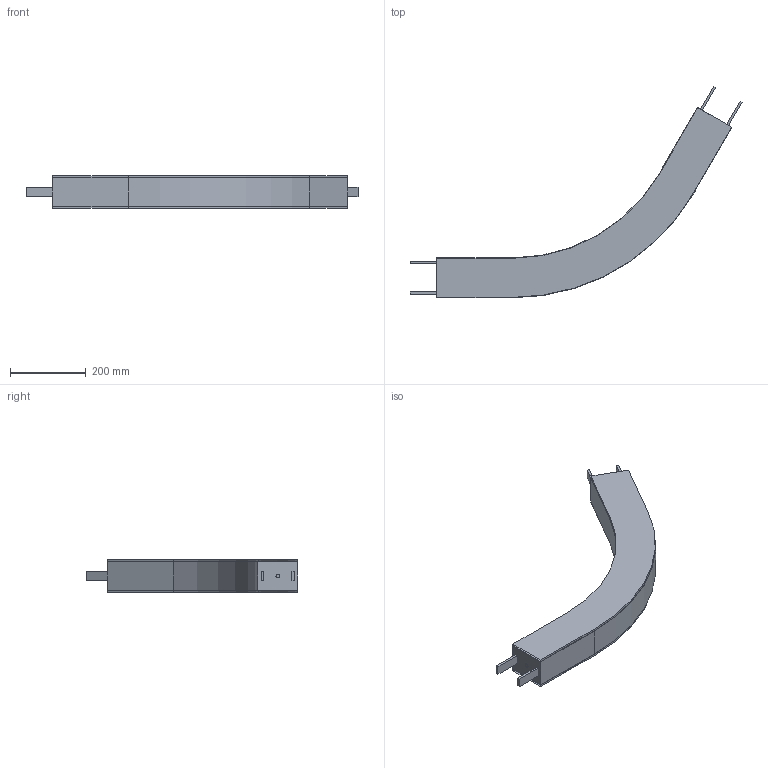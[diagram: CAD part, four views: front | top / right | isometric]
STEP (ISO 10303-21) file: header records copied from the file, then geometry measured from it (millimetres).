
FILE_DESCRIPTION(/* description */ ('Horizontaler Gleitbogen, 60°, R500'),/* implementation_level */ '2;1');
FILE_NAME(/* name */ 'T:\vdz0\Step Daten Website\modulflex FH-System\Horizontale Gleitbögen\FHBP 60R500_44010.stp',/* time_stamp */ '2024-09-03T12:07:13+02:00',/* author */ ('lzb0'),/* organization */ ('modular automation GmbH'),/* preprocessor_version */ 'ST-DEVELOPER v18.1',/* originating_system */ 'Autodesk Inventor 2021',/* authorisation */ '');
FILE_SCHEMA (('AUTOMOTIVE_DESIGN { 1 0 10303 214 3 1 1 }'));
Length unit declared in the file: millimetre
Products named in the file (1): FHBP 60R500
Bounding box: 875.25 x 557.83 x 86 mm (x, y, z)
Volume: 7357340.4 mm3; surface area: 785635.7 mm2
Topology: 5 solids, 9 shells, 52 faces, 126 edges, 84 vertices
Faces by surface type: plane 44, cylinder 8
Full cylindrical faces by diameter (mm): 10 x2
Entity records: 1596 total; most frequent: CARTESIAN_POINT 270, DIRECTION 250, ORIENTED_EDGE 232, EDGE_CURVE 126, LINE 110, VECTOR 110, VERTEX_POINT 84, AXIS2_PLACEMENT_3D 70
